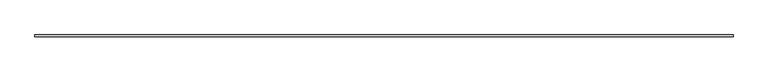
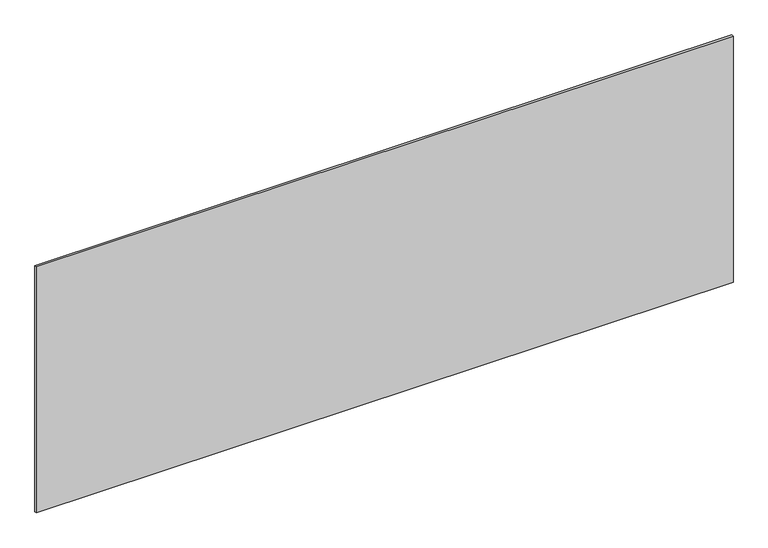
"""IFC4 building model written with IfcOpenShell, lengths in millimetres: plate geometry, システム パネル : 標準."""

from ifc_helpers import new_model, si_unit, origin, origin_with_axes, place, context, project, spatial, polyline, outline, extrude, source, transform, mapped, element, save


def plate_c8ad6baa(model_context):
    return source(origin(), model_context, "Body", "SweptSolid", [
        extrude(outline(polyline([(1697.5, -5.0), (-1697.5, -5.0), (-1697.5, 5.0), (1697.5, 5.0), (1697.5, -5.0)])), origin_with_axes(), (0.0, 0.0, 1.0), 1266.9562992),
    ])


if __name__ == "__main__":
    model = new_model("IFC4")
    model_context = context("Model", 3, world=origin())
    ifc_project = project(units=[si_unit("LENGTHUNIT", "METRE", prefix="MILLI")], contexts=[model_context])
    site = spatial("IfcSite", under=ifc_project)
    building = spatial("IfcBuilding", under=site)
    placement = place(None, origin())
    plate_shape = plate_c8ad6baa(model_context)
    element("IfcPlate", 1, ObjectType="システム パネル : 標準", at=placement, inside=building, context=model_context, shape_type="MappedRepresentation", body=[
        mapped(plate_shape, transform((0.0, 0.0, 0.0), x_axis=(1.0, 0.0, 0.0), y_axis=(0.0, 1.0, 0.0), z_axis=(0.0, 0.0, 1.0))),
    ])
    save(model, "model.ifc")
